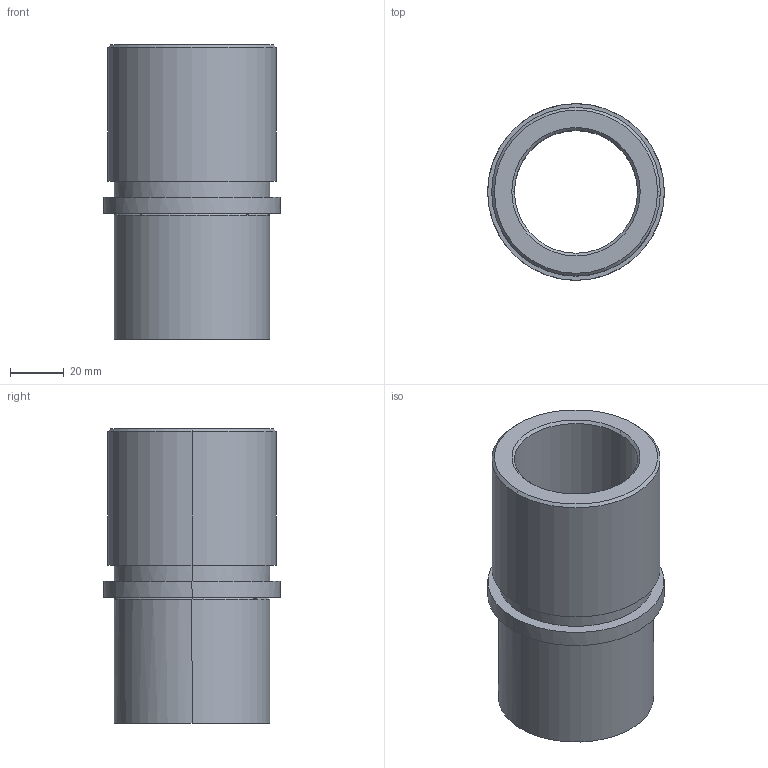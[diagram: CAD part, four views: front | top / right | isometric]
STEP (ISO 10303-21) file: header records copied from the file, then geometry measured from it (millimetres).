
FILE_DESCRIPTION(('CATIA V5 STEP Exchange'),'2;1');
FILE_NAME('C:\Users\Utente\Desktop\IO LAVORO\3D X SITO CF\X SITO\734\734-38.stp','2021-01-16T19:02:53+00:00',('none'),('none'),'CATIA Version 5 Release 20 GA (IN-10)','CATIA V5 STEP AP203','none');
FILE_SCHEMA(('CONFIG_CONTROL_DESIGN'));
Length unit declared in the file: millimetre
Products named in the file (1): 734-38
Assembly tree (1 placements, depth 2):
  734-38
    #58
Bounding box: 66 x 66 x 110 mm (x, y, z)
Volume: 136329 mm3; surface area: 41369.8 mm2
Topology: 1 solids, 1 shells, 25 faces, 50 edges, 30 vertices
Faces by surface type: cylinder 10, cone 6, plane 5, torus 4
Entity records: 851 total; most frequent: CARTESIAN_POINT 282, ORIENTED_EDGE 100, DIRECTION 96, AXIS2_PLACEMENT_3D 53, EDGE_CURVE 50, EDGE_LOOP 30, VERTEX_POINT 30, CIRCLE 26
